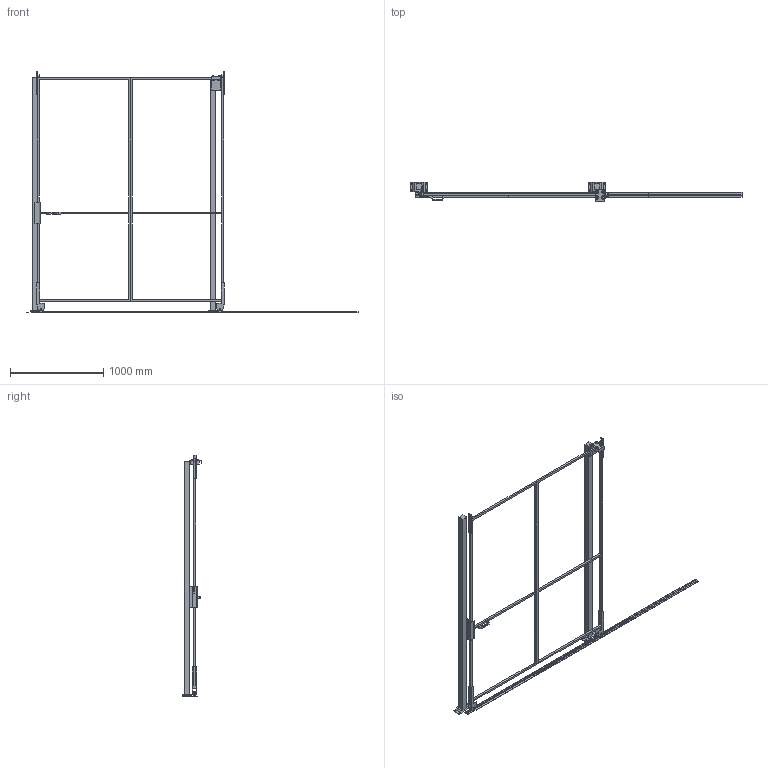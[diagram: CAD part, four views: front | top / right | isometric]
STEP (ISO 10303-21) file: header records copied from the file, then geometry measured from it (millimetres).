
FILE_DESCRIPTION(/* description */ (''),/* implementation_level */ '2;1');
FILE_NAME(/* name */ 'C:\SafeGuarding\ELABORATI\Drawing5_2025-05-13-10-32-51.stp',/* time_stamp */ '2025-05-13T10:32:53+02:00',/* author */ ('admin'),/* organization */ (''),/* preprocessor_version */ 'ST-DEVELOPER v18.1',/* originating_system */ 'AutoCAD Mechanical',/* authorisation */ '');
FILE_SCHEMA (('AUTOMOTIVE_DESIGN { 1 0 10303 214 3 1 1 }'));
Length unit declared in the file: millimetre
Products named in the file (3): Product; VFPA.REPE2010002400; P_VFMA.V260SDU.2520
Assembly tree (4 placements, depth 2):
  Product
    VFPA.REPE2010002400  x2
    P_VFMA.V260SDU.2520  x2
Bounding box: 3561.01 x 210.01 x 2590 mm (x, y, z)
Volume: 26528482.1 mm3; surface area: 3598644.1 mm2
Topology: 30 solids, 41 shells, 335 faces, 1148 edges, 1145 vertices
Faces by surface type: plane 289, cylinder 40, cone 4, sphere 2
Full cylindrical faces by diameter (mm): 9 x4, 11 x8, 13 x4, 18 x4, 30 x2, 36 x4, 58 x4
Entity records: 10637 total; most frequent: CARTESIAN_POINT 2281, DIRECTION 1620, ORIENTED_EDGE 1478, EDGE_CURVE 788, LINE 720, VECTOR 720, VERTEX_POINT 566, AXIS2_PLACEMENT_3D 450
